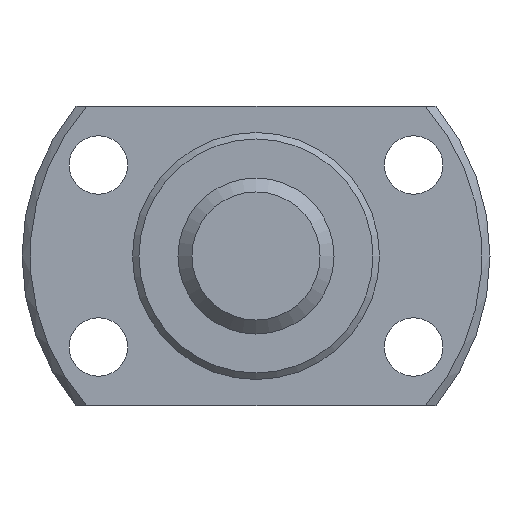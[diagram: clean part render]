
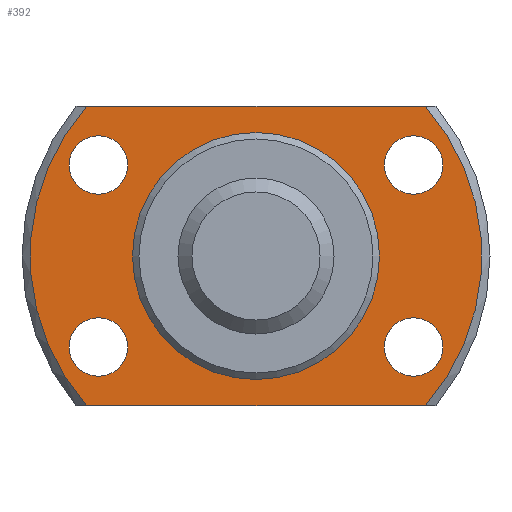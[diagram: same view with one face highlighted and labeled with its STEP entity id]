
A CAD part, left-side view. The second image highlights one B-rep face of the part: STEP entity #392.
In plain terms, the highlighted planar face has unit normal (-1, 0, 0) as drawn and (1, 0, 0) by its records, which use the part's own axes.
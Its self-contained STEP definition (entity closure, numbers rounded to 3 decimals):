
#22=LINE('',#695,#30);
#23=LINE('',#697,#31);
#30=VECTOR('',#570,1000.);
#31=VECTOR('',#571,1000.);
#114=ORIENTED_EDGE('',*,*,#189,.T.);
#115=ORIENTED_EDGE('',*,*,#167,.T.);
#116=ORIENTED_EDGE('',*,*,#190,.T.);
#117=ORIENTED_EDGE('',*,*,#191,.T.);
#118=ORIENTED_EDGE('',*,*,#192,.F.);
#119=ORIENTED_EDGE('',*,*,#193,.F.);
#120=ORIENTED_EDGE('',*,*,#194,.F.);
#121=ORIENTED_EDGE('',*,*,#195,.F.);
#122=ORIENTED_EDGE('',*,*,#188,.F.);
#167=EDGE_CURVE('',#209,#211,#245,.T.);
#188=EDGE_CURVE('',#230,#230,#260,.T.);
#189=EDGE_CURVE('',#231,#209,#22,.T.);
#190=EDGE_CURVE('',#211,#232,#23,.T.);
#191=EDGE_CURVE('',#232,#231,#261,.T.);
#192=EDGE_CURVE('',#233,#233,#262,.T.);
#193=EDGE_CURVE('',#234,#234,#263,.T.);
#194=EDGE_CURVE('',#235,#235,#264,.T.);
#195=EDGE_CURVE('',#236,#236,#265,.T.);
#209=VERTEX_POINT('',#630);
#211=VERTEX_POINT('',#637);
#230=VERTEX_POINT('',#693);
#231=VERTEX_POINT('',#696);
#232=VERTEX_POINT('',#698);
#233=VERTEX_POINT('',#701);
#234=VERTEX_POINT('',#703);
#235=VERTEX_POINT('',#705);
#236=VERTEX_POINT('',#707);
#245=CIRCLE('',#442,17.375);
#260=CIRCLE('',#466,9.3);
#261=CIRCLE('',#468,17.375);
#262=CIRCLE('',#469,2.25);
#263=CIRCLE('',#470,2.25);
#264=CIRCLE('',#471,2.25);
#265=CIRCLE('',#472,2.25);
#298=EDGE_LOOP('',(#114,#115,#116,#117));
#299=EDGE_LOOP('',(#118));
#300=EDGE_LOOP('',(#119));
#301=EDGE_LOOP('',(#120));
#302=EDGE_LOOP('',(#121));
#303=EDGE_LOOP('',(#122));
#348=FACE_BOUND('',#298,.T.);
#349=FACE_BOUND('',#299,.T.);
#350=FACE_BOUND('',#300,.T.);
#351=FACE_BOUND('',#301,.T.);
#352=FACE_BOUND('',#302,.T.);
#353=FACE_BOUND('',#303,.T.);
#373=PLANE('',#467);
#392=ADVANCED_FACE('',(#348,#349,#350,#351,#352,#353),#373,.T.);
#442=AXIS2_PLACEMENT_3D('',#638,#514,#515);
#466=AXIS2_PLACEMENT_3D('',#692,#566,#567);
#467=AXIS2_PLACEMENT_3D('',#694,#568,#569);
#468=AXIS2_PLACEMENT_3D('',#699,#572,#573);
#469=AXIS2_PLACEMENT_3D('',#700,#574,#575);
#470=AXIS2_PLACEMENT_3D('',#702,#576,#577);
#471=AXIS2_PLACEMENT_3D('',#704,#578,#579);
#472=AXIS2_PLACEMENT_3D('',#706,#580,#581);
#514=DIRECTION('',(1.,0.,0.));
#515=DIRECTION('',(0.,0.,-1.));
#566=DIRECTION('',(1.,0.,0.));
#567=DIRECTION('',(0.,0.,-1.));
#568=DIRECTION('',(1.,0.,0.));
#569=DIRECTION('',(0.,0.,-1.));
#570=DIRECTION('',(0.,-1.,0.));
#571=DIRECTION('',(0.,1.,0.));
#572=DIRECTION('',(1.,0.,0.));
#573=DIRECTION('',(0.,0.,-1.));
#574=DIRECTION('',(1.,0.,0.));
#575=DIRECTION('',(0.,0.,-1.));
#576=DIRECTION('',(1.,0.,0.));
#577=DIRECTION('',(0.,0.,-1.));
#578=DIRECTION('',(1.,0.,0.));
#579=DIRECTION('',(0.,0.,-1.));
#580=DIRECTION('',(1.,0.,0.));
#581=DIRECTION('',(0.,0.,-1.));
#630=CARTESIAN_POINT('',(5.,-13.025,11.5));
#637=CARTESIAN_POINT('',(5.,-13.025,-11.5));
#638=CARTESIAN_POINT('',(5.,0.,0.));
#692=CARTESIAN_POINT('',(5.,0.,0.));
#693=CARTESIAN_POINT('',(5.,0.,-9.3));
#694=CARTESIAN_POINT('',(5.,9.3,0.));
#695=CARTESIAN_POINT('',(5.,18.,11.5));
#696=CARTESIAN_POINT('',(5.,13.025,11.5));
#697=CARTESIAN_POINT('',(5.,-18.,-11.5));
#698=CARTESIAN_POINT('',(5.,13.025,-11.5));
#699=CARTESIAN_POINT('',(5.,0.,0.));
#700=CARTESIAN_POINT('',(5.,12.124,7.));
#701=CARTESIAN_POINT('',(5.,12.124,4.75));
#702=CARTESIAN_POINT('',(5.,-12.124,7.));
#703=CARTESIAN_POINT('',(5.,-12.124,4.75));
#704=CARTESIAN_POINT('',(5.,-12.124,-7.));
#705=CARTESIAN_POINT('',(5.,-12.124,-9.25));
#706=CARTESIAN_POINT('',(5.,12.124,-7.));
#707=CARTESIAN_POINT('',(5.,12.124,-9.25));
